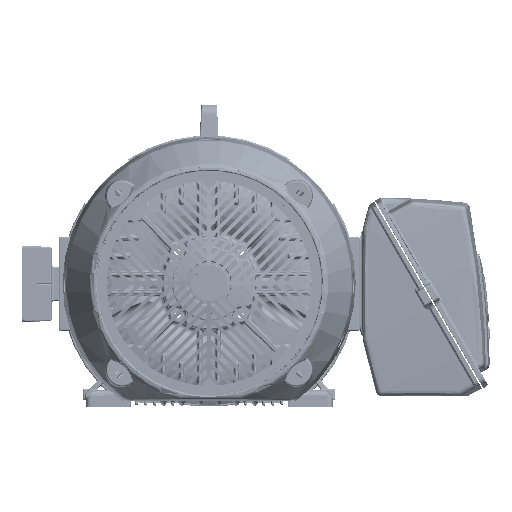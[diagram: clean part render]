
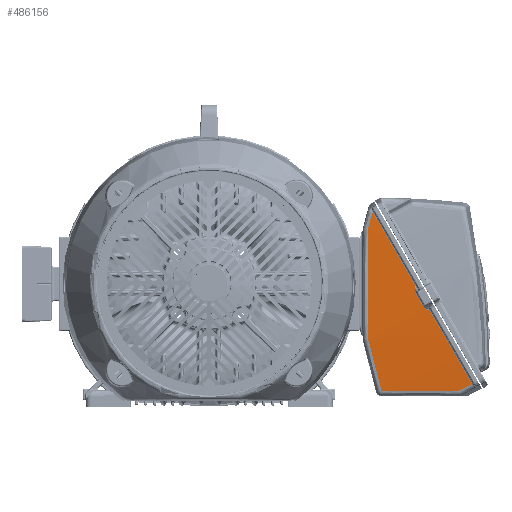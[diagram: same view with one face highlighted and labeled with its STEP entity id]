
A CAD part, top view. The second image highlights one B-rep face of the part: STEP entity #486156.
In plain terms, the highlighted conical face has half-angle 2 degrees and reference radius 2542.44 mm.
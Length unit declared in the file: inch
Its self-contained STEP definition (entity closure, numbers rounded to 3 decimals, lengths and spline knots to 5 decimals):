
#473495=CARTESIAN_POINT('',(-5.08567,7.2231,
7.39537));
#473496=CARTESIAN_POINT('',(-5.14737,6.99053,
7.40446));
#473497=CARTESIAN_POINT('',(-5.27356,6.51478,
7.42216));
#473498=CARTESIAN_POINT('',(-5.40483,6.01998,
7.43862));
#473499=CARTESIAN_POINT('',(-5.47196,5.76696,
7.44652));
#473511=DIRECTION('',(-0.849,-0.527,
-0.032));
#473512=VECTOR('',#473511,0.10742);
#473513=CARTESIAN_POINT('',(-4.99446,7.27973,
7.39883));
#473514=LINE('',#473513,#473512);
#473615=CARTESIAN_POINT('',(-4.99446,7.27973,
7.39883));
#473637=CARTESIAN_POINT('',(0.0192,-1.40418,
7.77857));
#473658=CARTESIAN_POINT('',(-0.59363,-0.34273,
-92.43721));
#473659=DIRECTION('',(-0.866,-0.5,0.));
#473660=DIRECTION('',(0.044,-0.076,0.996));
#473661=AXIS2_PLACEMENT_3D('',#473658,#473659,#473660);
#473809=DIRECTION('',(-0.878,-0.477,
-0.035));
#473810=VECTOR('',#473809,0.06914);
#473811=CARTESIAN_POINT('',(0.0192,-1.40418,
7.77857));
#473812=LINE('',#473811,#473810);
#473831=CARTESIAN_POINT('',(2.61459,-8.60375,
7.35524));
#473832=CARTESIAN_POINT('',(2.8134,-8.4973,
7.36251));
#473833=CARTESIAN_POINT('',(3.21096,-8.28444,
7.37704));
#473834=CARTESIAN_POINT('',(3.60847,-8.0716,
7.39157));
#473835=CARTESIAN_POINT('',(3.8072,-7.96519,
7.39883));
#474534=CARTESIAN_POINT('',(-5.47196,5.76696,
7.44652));
#474535=CARTESIAN_POINT('',(-5.46963,4.68959,
7.50002));
#474536=CARTESIAN_POINT('',(-5.46487,2.5321,
7.58087));
#474537=CARTESIAN_POINT('',(-5.45792,-0.70662,
7.62334));
#474538=CARTESIAN_POINT('',(-5.4532,-2.86579,
7.59913));
#474539=CARTESIAN_POINT('',(-5.45086,-3.94529,
7.57388));
#474557=CARTESIAN_POINT('',(-5.45086,-3.94529,
7.57388));
#474558=CARTESIAN_POINT('',(-5.24931,-4.71972,
7.56112));
#474559=CARTESIAN_POINT('',(-4.84619,-6.26862,
7.51774));
#474560=CARTESIAN_POINT('',(-4.44349,-7.8158,
7.43868));
#474561=CARTESIAN_POINT('',(-4.24227,-8.58892,
7.39024));
#474593=CARTESIAN_POINT('',(-4.24227,-8.58892,
7.39024));
#474594=CARTESIAN_POINT('',(-3.48032,-8.59057,
7.39292));
#474595=CARTESIAN_POINT('',(-1.95638,-8.59387,
7.3939));
#474596=CARTESIAN_POINT('',(0.32952,-8.59881,
7.38223));
#474597=CARTESIAN_POINT('',(1.85297,-8.6021,
7.3657));
#474598=CARTESIAN_POINT('',(2.61459,-8.60375,
7.35524));
#474915=CARTESIAN_POINT('',(-0.87076,-0.50273,
-92.43721));
#474916=DIRECTION('',(-0.866,-0.5,0.));
#474917=DIRECTION('',(0.004,-0.006,1.));
#474918=AXIS2_PLACEMENT_3D('',#474915,#474916,#474917);
#474920=CARTESIAN_POINT('',(-0.04153,-1.43716,
7.77618));
#474921=CARTESIAN_POINT('',(-0.07549,-1.42481,
7.77569));
#474922=CARTESIAN_POINT('',(-0.1404,-1.40083,
7.77479));
#474923=CARTESIAN_POINT('',(-0.22684,-1.36411,
7.77364));
#474924=CARTESIAN_POINT('',(-0.30402,-1.32414,
7.77276));
#474925=CARTESIAN_POINT('',(-0.37154,-1.28009,
7.77217));
#474926=CARTESIAN_POINT('',(-0.4288,-1.23221,
7.7719));
#474927=CARTESIAN_POINT('',(-0.47571,-1.18086,
7.77193));
#474928=CARTESIAN_POINT('',(-0.49943,-1.14589,
7.77214));
#474929=CARTESIAN_POINT('',(-0.50964,-1.1282,
7.77229));
#475319=DIRECTION('',(0.852,0.522,0.035));
#475320=VECTOR('',#475319,0.06914);
#475321=CARTESIAN_POINT('',(-1.26538,0.68262,
7.77618));
#475322=LINE('',#475321,#475320);
#475360=CARTESIAN_POINT('',(-0.59363,-0.34273,
-92.43721));
#475361=DIRECTION('',(-0.866,-0.5,0.));
#475362=DIRECTION('',(-0.006,0.011,1.));
#475363=AXIS2_PLACEMENT_3D('',#475360,#475361,#475362);
#475399=CARTESIAN_POINT('',(-1.26538,0.68262,
7.77618));
#475406=CARTESIAN_POINT('',(-1.23187,0.12274,
7.77229));
#475407=CARTESIAN_POINT('',(-1.2421,0.14045,
7.77214));
#475408=CARTESIAN_POINT('',(-1.26054,0.17851,
7.77193));
#475409=CARTESIAN_POINT('',(-1.28156,0.24489,
7.7719));
#475410=CARTESIAN_POINT('',(-1.29439,0.31853,
7.77217));
#475411=CARTESIAN_POINT('',(-1.29875,0.39911,
7.77276));
#475412=CARTESIAN_POINT('',(-1.29474,0.48595,
7.77364));
#475413=CARTESIAN_POINT('',(-1.28332,0.57901,
7.77479));
#475414=CARTESIAN_POINT('',(-1.27166,0.6471,
7.7757));
#475415=CARTESIAN_POINT('',(-1.26538,0.68262,
7.77618));
#480065=VERTEX_POINT('',#474593);
#480066=VERTEX_POINT('',#474598);
#480067=VERTEX_POINT('',#474557);
#480068=VERTEX_POINT('',#474534);
#480069=VERTEX_POINT('',#473495);
#480150=VERTEX_POINT('',#475399);
#480151=VERTEX_POINT('',#475406);
#480154=CARTESIAN_POINT('',(-0.50964,-1.1282,
7.77229));
#480155=VERTEX_POINT('',#480154);
#480156=VERTEX_POINT('',#474920);
#480188=VERTEX_POINT('',#473637);
#480191=CARTESIAN_POINT('',(3.8072,-7.96519,
7.39883));
#480192=VERTEX_POINT('',#480191);
#480204=VERTEX_POINT('',#473615);
#480207=CARTESIAN_POINT('',(-1.20646,0.71872,
7.77857));
#480208=VERTEX_POINT('',#480207);
#486127=CARTESIAN_POINT('',(-3.74721,-2.16345,
-92.43721));
#486128=DIRECTION('',(0.866,0.5,0.));
#486129=DIRECTION('',(0.,0.,-1.));
#486130=AXIS2_PLACEMENT_3D('',#486127,#486128,#486129);
#486131=CONICAL_SURFACE('',#486130,100.09611,2.);
#486132=ORIENTED_EDGE('',*,*,#485816,.F.);
#486134=ORIENTED_EDGE('',*,*,#486133,.F.);
#486136=ORIENTED_EDGE('',*,*,#486135,.F.);
#486138=ORIENTED_EDGE('',*,*,#486137,.F.);
#486140=ORIENTED_EDGE('',*,*,#486139,.F.);
#486141=ORIENTED_EDGE('',*,*,#485454,.F.);
#486142=ORIENTED_EDGE('',*,*,#485495,.F.);
#486144=ORIENTED_EDGE('',*,*,#486143,.F.);
#486146=ORIENTED_EDGE('',*,*,#486145,.F.);
#486148=ORIENTED_EDGE('',*,*,#486147,.F.);
#486150=ORIENTED_EDGE('',*,*,#486149,.F.);
#486152=ORIENTED_EDGE('',*,*,#486151,.F.);
#486153=ORIENTED_EDGE('',*,*,#486118,.F.);
#486154=EDGE_LOOP('',(#486132,#486134,#486136,#486138,#486140,#486141,#486142,
#486144,#486146,#486148,#486150,#486152,#486153));
#486155=FACE_OUTER_BOUND('',#486154,.F.);
#486156=ADVANCED_FACE('',(#486155),#486131,.T.);
#473500=B_SPLINE_CURVE_WITH_KNOTS('',3,(#473495,#473496,#473497,#473498,
#473499),.UNSPECIFIED.,.F.,.F.,(4,1,4),(0.,0.5,1.),.UNSPECIFIED.);
#473662=CIRCLE('',#473661,100.22327);
#473836=B_SPLINE_CURVE_WITH_KNOTS('',3,(#473831,#473832,#473833,#473834,
#473835),.UNSPECIFIED.,.F.,.F.,(4,1,4),(0.,0.5,1.),.UNSPECIFIED.);
#474540=B_SPLINE_CURVE_WITH_KNOTS('',3,(#474534,#474535,#474536,#474537,#474538,
#474539),.UNSPECIFIED.,.F.,.F.,(4,1,1,4),(0.,0.33333,
0.66667,1.),.UNSPECIFIED.);
#474562=B_SPLINE_CURVE_WITH_KNOTS('',3,(#474557,#474558,#474559,#474560,
#474561),.UNSPECIFIED.,.F.,.F.,(4,1,4),(0.,0.5,1.),.UNSPECIFIED.);
#474599=B_SPLINE_CURVE_WITH_KNOTS('',3,(#474593,#474594,#474595,#474596,#474597,
#474598),.UNSPECIFIED.,.F.,.F.,(4,1,1,4),(0.,0.33333,
0.66667,1.),.UNSPECIFIED.);
#474919=CIRCLE('',#474918,100.2121);
#474930=B_SPLINE_CURVE_WITH_KNOTS('',3,(#474920,#474921,#474922,#474923,#474924,
#474925,#474926,#474927,#474928,#474929),.UNSPECIFIED.,.F.,.F.,(4,1,1,1,1,1,1,
4),(0.,0.14286,0.28571,0.42857,
0.57143,0.71429,0.85714,1.),.UNSPECIFIED.);
#475364=CIRCLE('',#475363,100.22327);
#475416=B_SPLINE_CURVE_WITH_KNOTS('',3,(#475406,#475407,#475408,#475409,#475410,
#475411,#475412,#475413,#475414,#475415),.UNSPECIFIED.,.F.,.F.,(4,1,1,1,1,1,1,
4),(0.,0.14286,0.28571,0.42857,
0.57143,0.71429,0.85714,1.),.UNSPECIFIED.);
#485454=EDGE_CURVE('',#480069,#480068,#473500,.T.);
#485495=EDGE_CURVE('',#480204,#480069,#473514,.T.);
#485816=EDGE_CURVE('',#480192,#480188,#473662,.T.);
#486118=EDGE_CURVE('',#480188,#480156,#473812,.T.);
#486133=EDGE_CURVE('',#480066,#480192,#473836,.T.);
#486135=EDGE_CURVE('',#480065,#480066,#474599,.T.);
#486137=EDGE_CURVE('',#480067,#480065,#474562,.T.);
#486139=EDGE_CURVE('',#480068,#480067,#474540,.T.);
#486143=EDGE_CURVE('',#480208,#480204,#475364,.T.);
#486145=EDGE_CURVE('',#480150,#480208,#475322,.T.);
#486147=EDGE_CURVE('',#480151,#480150,#475416,.T.);
#486149=EDGE_CURVE('',#480155,#480151,#474919,.T.);
#486151=EDGE_CURVE('',#480156,#480155,#474930,.T.);
